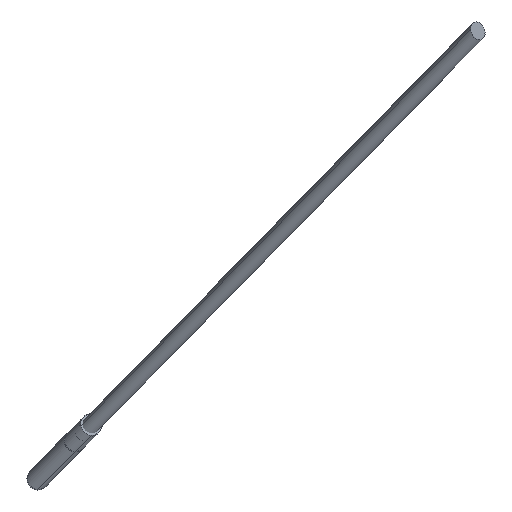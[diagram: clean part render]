
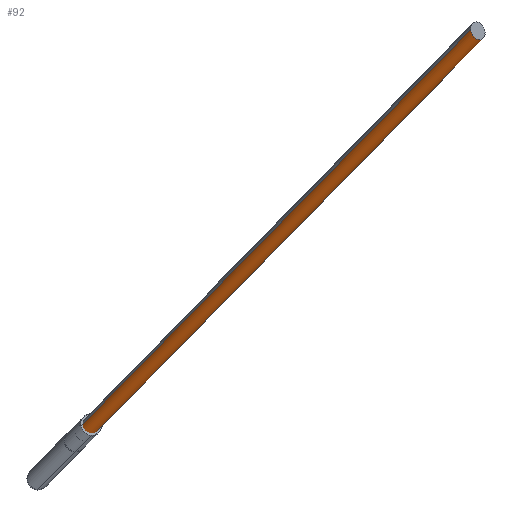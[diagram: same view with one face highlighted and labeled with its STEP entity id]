
A CAD part, front view. The second image highlights one B-rep face of the part: STEP entity #92.
In plain terms, the highlighted cylindrical face has radius 4 mm (diameter 8 mm), a partial arc.
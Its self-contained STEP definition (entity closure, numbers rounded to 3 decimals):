
#1=CARTESIAN_POINT('',(36.719,-154.981,-39.689));
#2=CARTESIAN_POINT('',(36.723,-155.022,-39.921));
#3=CARTESIAN_POINT('',(36.696,-155.155,-40.395));
#4=CARTESIAN_POINT('',(36.535,-155.528,-41.095));
#5=CARTESIAN_POINT('',(36.242,-156.079,-41.739));
#6=CARTESIAN_POINT('',(35.825,-156.789,-42.277));
#7=CARTESIAN_POINT('',(35.306,-157.619,-42.671));
#8=CARTESIAN_POINT('',(34.818,-158.362,-42.862));
#9=CARTESIAN_POINT('',(34.416,-158.958,-42.934));
#10=CARTESIAN_POINT('',(34.113,-159.399,-42.949));
#11=CARTESIAN_POINT('',(33.863,-159.757,-42.932));
#12=CARTESIAN_POINT('',(33.667,-160.036,-42.903));
#13=CARTESIAN_POINT('',(33.522,-160.239,-42.873));
#14=CARTESIAN_POINT('',(33.377,-160.441,-42.836));
#15=CARTESIAN_POINT('',(33.18,-160.714,-42.774));
#16=CARTESIAN_POINT('',(32.929,-161.058,-42.675));
#17=CARTESIAN_POINT('',(32.623,-161.469,-42.518));
#18=CARTESIAN_POINT('',(32.216,-162.006,-42.258));
#19=CARTESIAN_POINT('',(31.719,-162.641,-41.839));
#20=CARTESIAN_POINT('',(31.184,-163.288,-41.2));
#21=CARTESIAN_POINT('',(30.747,-163.774,-40.464));
#22=CARTESIAN_POINT('',(30.433,-164.073,-39.679));
#23=CARTESIAN_POINT('',(30.249,-164.184,-38.899));
#24=CARTESIAN_POINT('',(30.207,-164.147,-38.409));
#25=CARTESIAN_POINT('',(30.204,-164.106,-38.177));
#27=DIRECTION('',(-0.171,0.97,-0.174));
#28=VECTOR('',#27,1041.8);
#29=CARTESIAN_POINT('',(36.719,-154.981,-39.689));
#30=LINE('',#29,#28);
#31=CARTESIAN_POINT('',(-145.118,854.722,-220.793));
#32=DIRECTION('',(-0.171,0.97,-0.174));
#33=DIRECTION('',(0.985,0.171,-0.015));
#34=AXIS2_PLACEMENT_3D('',#31,#32,#33);
#62=DIRECTION('',(-0.171,0.97,-0.174));
#63=VECTOR('',#62,1049.8);
#64=CARTESIAN_POINT('',(30.204,-164.106,-38.177));
#65=LINE('',#64,#63);
#71=CARTESIAN_POINT('',(-141.177,855.405,-220.853));
#72=CARTESIAN_POINT('',(-149.059,854.039,-220.733));
#73=VERTEX_POINT('',#71);
#74=VERTEX_POINT('',#72);
#75=VERTEX_POINT('',#1);
#76=VERTEX_POINT('',#25);
#77=CARTESIAN_POINT('',(34.145,-163.423,-38.237));
#78=DIRECTION('',(-0.171,0.97,-0.174));
#79=DIRECTION('',(0.985,0.171,-0.015));
#80=AXIS2_PLACEMENT_3D('',#77,#78,#79);
#81=CYLINDRICAL_SURFACE('',#80,4.);
#83=ORIENTED_EDGE('',*,*,#82,.F.);
#85=ORIENTED_EDGE('',*,*,#84,.T.);
#87=ORIENTED_EDGE('',*,*,#86,.T.);
#89=ORIENTED_EDGE('',*,*,#88,.F.);
#90=EDGE_LOOP('',(#83,#85,#87,#89));
#91=FACE_OUTER_BOUND('',#90,.F.);
#92=ADVANCED_FACE('',(#91),#81,.T.);
#26=B_SPLINE_CURVE_WITH_KNOTS('',3,(#1,#2,#3,#4,#5,#6,#7,#8,#9,#10,#11,#12,#13,
#14,#15,#16,#17,#18,#19,#20,#21,#22,#23,#24,#25),.UNSPECIFIED.,.F.,.F.,(4,1,1,1,
1,1,1,1,1,1,1,1,1,1,1,1,1,1,1,1,1,1,4),(0.,0.063,0.125,0.188,0.25,
0.313,0.375,0.406,0.438,0.469,0.484,0.5,0.516,
0.531,0.563,0.594,0.625,0.688,0.75,0.813,0.875,0.938,
1.),.UNSPECIFIED.);
#35=CIRCLE('',#34,4.);
#82=EDGE_CURVE('',#75,#76,#26,.T.);
#84=EDGE_CURVE('',#75,#73,#30,.T.);
#86=EDGE_CURVE('',#73,#74,#35,.T.);
#88=EDGE_CURVE('',#76,#74,#65,.T.);
